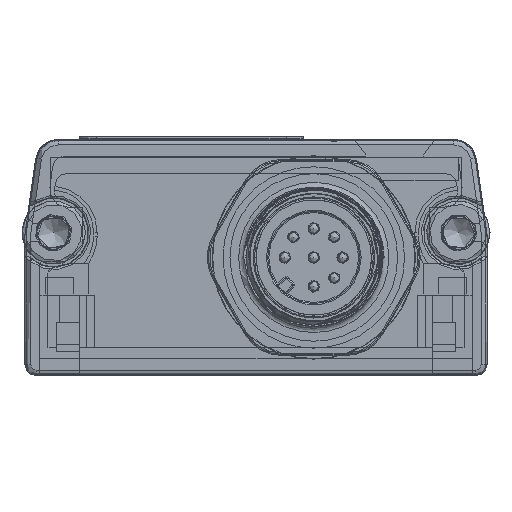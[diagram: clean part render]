
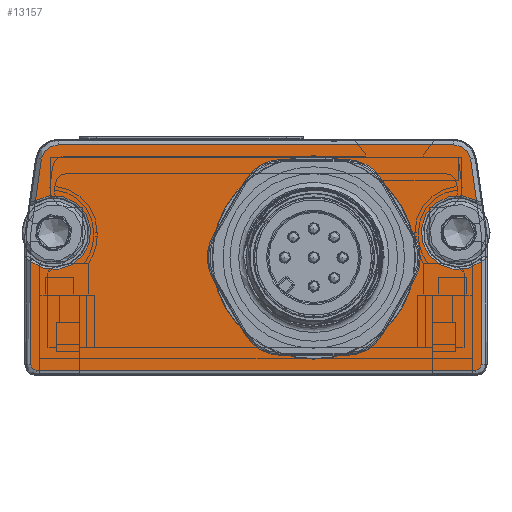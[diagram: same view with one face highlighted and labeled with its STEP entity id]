
A CAD part, front view. The second image highlights one B-rep face of the part: STEP entity #13157.
In plain terms, the highlighted planar face has unit normal (0, -1, 0).
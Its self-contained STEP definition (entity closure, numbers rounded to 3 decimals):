
#206=FACE_BOUND('',#2592,.T.);
#603=CIRCLE('',#14221,8.8);
#604=CIRCLE('',#14222,8.8);
#609=CIRCLE('',#14229,3.2);
#610=CIRCLE('',#14230,1.5);
#611=CIRCLE('',#14231,1.5);
#612=CIRCLE('',#14232,3.2);
#613=CIRCLE('',#14233,0.5);
#614=CIRCLE('',#14234,0.5);
#1822=FACE_OUTER_BOUND('',#2591,.T.);
#2591=EDGE_LOOP('',(#10213,#10214,#10215,#10216,#10217,#10218,#10219,#10220,
#10221,#10222,#10223,#10224));
#2592=EDGE_LOOP('',(#10225,#10226));
#3421=LINE('',#26399,#4407);
#3422=LINE('',#26403,#4408);
#3423=LINE('',#26407,#4409);
#3424=LINE('',#26411,#4410);
#3425=LINE('',#26415,#4411);
#3426=LINE('',#26418,#4412);
#4407=VECTOR('',#16795,10.);
#4408=VECTOR('',#16798,10.);
#4409=VECTOR('',#16801,10.);
#4410=VECTOR('',#16804,10.);
#4411=VECTOR('',#16807,10.);
#4412=VECTOR('',#16810,10.);
#5593=VERTEX_POINT('',#26380);
#5594=VERTEX_POINT('',#26382);
#5598=VERTEX_POINT('',#26395);
#5599=VERTEX_POINT('',#26396);
#5600=VERTEX_POINT('',#26398);
#5601=VERTEX_POINT('',#26400);
#5602=VERTEX_POINT('',#26402);
#5603=VERTEX_POINT('',#26404);
#5604=VERTEX_POINT('',#26406);
#5605=VERTEX_POINT('',#26408);
#5606=VERTEX_POINT('',#26410);
#5607=VERTEX_POINT('',#26412);
#5608=VERTEX_POINT('',#26414);
#5609=VERTEX_POINT('',#26416);
#7210=EDGE_CURVE('',#5593,#5594,#603,.T.);
#7211=EDGE_CURVE('',#5594,#5593,#604,.T.);
#7217=EDGE_CURVE('',#5598,#5599,#609,.T.);
#7218=EDGE_CURVE('',#5599,#5600,#3421,.T.);
#7219=EDGE_CURVE('',#5600,#5601,#610,.T.);
#7220=EDGE_CURVE('',#5601,#5602,#3422,.T.);
#7221=EDGE_CURVE('',#5602,#5603,#611,.T.);
#7222=EDGE_CURVE('',#5603,#5604,#3423,.T.);
#7223=EDGE_CURVE('',#5604,#5605,#612,.T.);
#7224=EDGE_CURVE('',#5605,#5606,#3424,.T.);
#7225=EDGE_CURVE('',#5606,#5607,#613,.T.);
#7226=EDGE_CURVE('',#5607,#5608,#3425,.T.);
#7227=EDGE_CURVE('',#5608,#5609,#614,.T.);
#7228=EDGE_CURVE('',#5609,#5598,#3426,.T.);
#10213=ORIENTED_EDGE('',*,*,#7217,.T.);
#10214=ORIENTED_EDGE('',*,*,#7218,.T.);
#10215=ORIENTED_EDGE('',*,*,#7219,.T.);
#10216=ORIENTED_EDGE('',*,*,#7220,.T.);
#10217=ORIENTED_EDGE('',*,*,#7221,.T.);
#10218=ORIENTED_EDGE('',*,*,#7222,.T.);
#10219=ORIENTED_EDGE('',*,*,#7223,.T.);
#10220=ORIENTED_EDGE('',*,*,#7224,.T.);
#10221=ORIENTED_EDGE('',*,*,#7225,.T.);
#10222=ORIENTED_EDGE('',*,*,#7226,.T.);
#10223=ORIENTED_EDGE('',*,*,#7227,.T.);
#10224=ORIENTED_EDGE('',*,*,#7228,.T.);
#10225=ORIENTED_EDGE('',*,*,#7211,.F.);
#10226=ORIENTED_EDGE('',*,*,#7210,.F.);
#11816=PLANE('',#14228);
#13157=ADVANCED_FACE('',(#1822,#206),#11816,.F.);
#14221=AXIS2_PLACEMENT_3D('',#26383,#16776,#16777);
#14222=AXIS2_PLACEMENT_3D('',#26384,#16778,#16779);
#14228=AXIS2_PLACEMENT_3D('',#26394,#16791,#16792);
#14229=AXIS2_PLACEMENT_3D('',#26397,#16793,#16794);
#14230=AXIS2_PLACEMENT_3D('',#26401,#16796,#16797);
#14231=AXIS2_PLACEMENT_3D('',#26405,#16799,#16800);
#14232=AXIS2_PLACEMENT_3D('',#26409,#16802,#16803);
#14233=AXIS2_PLACEMENT_3D('',#26413,#16805,#16806);
#14234=AXIS2_PLACEMENT_3D('',#26417,#16808,#16809);
#16776=DIRECTION('center_axis',(0.,-1.,0.));
#16777=DIRECTION('ref_axis',(-1.,0.,0.));
#16778=DIRECTION('center_axis',(0.,-1.,0.));
#16779=DIRECTION('ref_axis',(-1.,0.,0.));
#16791=DIRECTION('center_axis',(0.,1.,0.));
#16792=DIRECTION('ref_axis',(0.,0.,
1.));
#16793=DIRECTION('center_axis',(0.,1.,0.));
#16794=DIRECTION('ref_axis',(-0.997,0.,-0.08));
#16795=DIRECTION('',(-0.139,0.,0.99));
#16796=DIRECTION('center_axis',(0.,-1.,0.));
#16797=DIRECTION('ref_axis',(0.643,0.,0.766));
#16798=DIRECTION('',(-1.,0.,0.));
#16799=DIRECTION('center_axis',(0.,-1.,0.));
#16800=DIRECTION('ref_axis',(-0.643,0.,0.766));
#16801=DIRECTION('',(-0.139,0.,-0.99));
#16802=DIRECTION('center_axis',(0.,1.,0.));
#16803=DIRECTION('ref_axis',(0.997,0.,-0.08));
#16804=DIRECTION('',(0.,0.,-1.));
#16805=DIRECTION('center_axis',(0.,-1.,0.));
#16806=DIRECTION('ref_axis',(-0.707,0.,-0.707));
#16807=DIRECTION('',(1.,0.,0.));
#16808=DIRECTION('center_axis',(0.,-1.,0.));
#16809=DIRECTION('ref_axis',(0.707,0.,-0.707));
#16810=DIRECTION('',(0.,0.,1.));
#26380=CARTESIAN_POINT('',(9.486,-9.9,-17.773));
#26382=CARTESIAN_POINT('',(18.286,-9.9,-8.973));
#26383=CARTESIAN_POINT('Origin',(9.486,-9.9,-8.973));
#26384=CARTESIAN_POINT('Origin',(9.486,-9.9,-8.973));
#26394=CARTESIAN_POINT('Origin',(4.486,-9.9,-9.258));
#26395=CARTESIAN_POINT('',(23.986,-9.9,-9.321));
#26396=CARTESIAN_POINT('',(23.567,-9.9,-4.04));
#26397=CARTESIAN_POINT('Origin',(21.986,-9.9,-6.823));
#26398=CARTESIAN_POINT('',(23.063,-9.9,-0.454));
#26399=CARTESIAN_POINT('',(23.954,-9.9,-6.794));
#26400=CARTESIAN_POINT('',(21.588,-9.9,0.777));
#26401=CARTESIAN_POINT('Origin',(21.588,-9.9,-0.723));
#26402=CARTESIAN_POINT('',(-12.615,-9.9,0.777));
#26403=CARTESIAN_POINT('',(13.037,-9.9,0.777));
#26404=CARTESIAN_POINT('',(-14.091,-9.9,-0.454));
#26405=CARTESIAN_POINT('Origin',(-12.615,-9.9,-0.723));
#26406=CARTESIAN_POINT('',(-14.595,-9.9,-4.04));
#26407=CARTESIAN_POINT('',(-14.517,-9.9,-3.487));
#26408=CARTESIAN_POINT('',(-15.014,-9.9,-9.321));
#26409=CARTESIAN_POINT('Origin',(-13.014,-9.9,-6.823));
#26410=CARTESIAN_POINT('',(-15.014,-9.9,-18.223));
#26411=CARTESIAN_POINT('',(-15.014,-9.9,-8.124));
#26412=CARTESIAN_POINT('',(-14.514,-9.9,-18.723));
#26413=CARTESIAN_POINT('Origin',(-14.514,-9.9,-18.223));
#26414=CARTESIAN_POINT('',(23.486,-9.9,-18.723));
#26415=CARTESIAN_POINT('',(-5.014,-9.9,-18.723));
#26416=CARTESIAN_POINT('',(23.986,-9.9,-18.223));
#26417=CARTESIAN_POINT('Origin',(23.486,-9.9,-18.223));
#26418=CARTESIAN_POINT('',(23.986,-9.9,-13.74));
